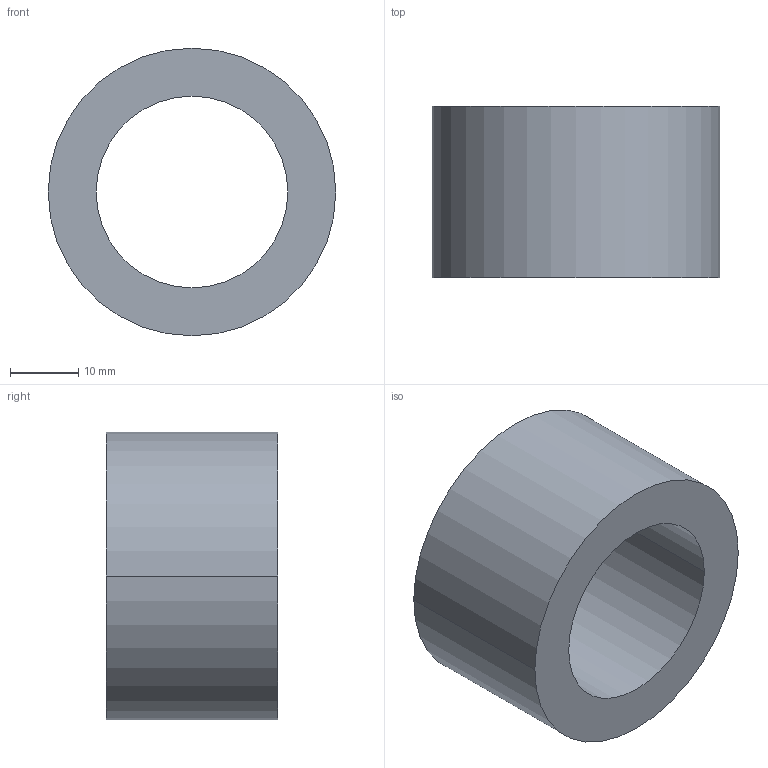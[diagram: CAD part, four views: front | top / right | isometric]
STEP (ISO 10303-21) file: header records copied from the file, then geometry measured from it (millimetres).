
FILE_DESCRIPTION (( 'STEP AP203' ), '1' );
FILE_NAME ('30800.WPP42J28.0.step', '2019-01-23T22:50:31', ( '' ), ( '' ), 'SwSTEP 2.0', 'SolidWorks 2017', '' );
FILE_SCHEMA (( 'CONFIG_CONTROL_DESIGN' ));
Length unit declared in the file: millimetre
Products named in the file (1): 30800.WPP42J28.0
Bounding box: 42 x 25 x 42 mm (x, y, z)
Volume: 19064.2 mm3; surface area: 6927.9 mm2
Topology: 1 solids, 1 shells, 8 faces, 16 edges, 10 vertices
Faces by surface type: cylinder 4, torus 2, plane 2
Entity records: 297 total; most frequent: DIRECTION 46, CARTESIAN_POINT 35, ORIENTED_EDGE 32, AXIS2_PLACEMENT_3D 21, EDGE_CURVE 16, CIRCLE 12, EDGE_LOOP 10, VERTEX_POINT 10
